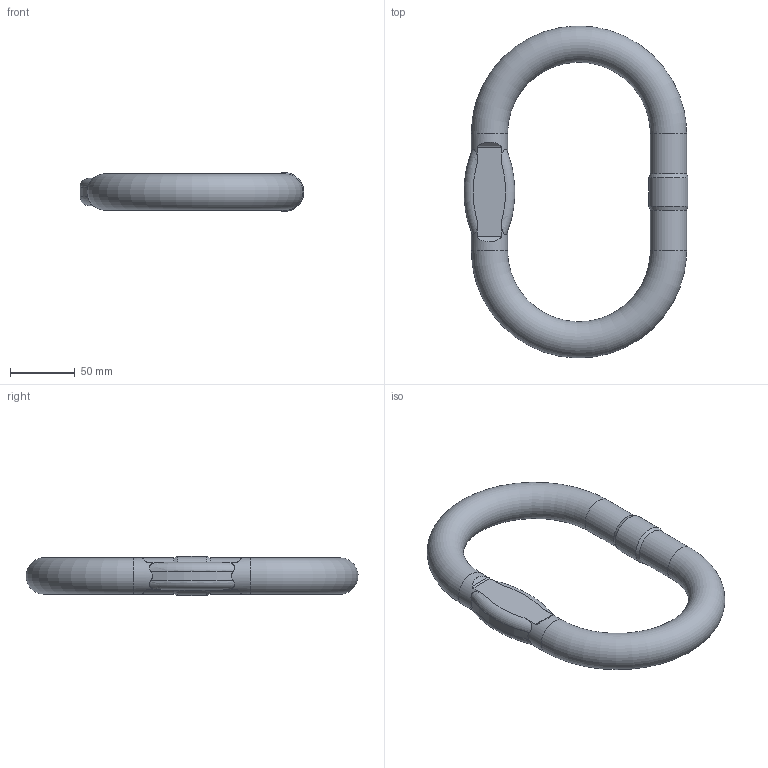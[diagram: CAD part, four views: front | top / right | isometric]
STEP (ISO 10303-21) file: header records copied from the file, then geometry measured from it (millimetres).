
FILE_DESCRIPTION(/* description */ (''),/* implementation_level */ '2;1');
FILE_NAME(/* name */ 'AWP_27.stp',/* time_stamp */ '2018-02-23T10:29:47+01:00',/* author */ (''),/* organization */ (''),/* preprocessor_version */ 'ST-DEVELOPER v16',/* originating_system */ 'SIEMENS PLM Software NX 11.0',/* authorisation */ '');
FILE_SCHEMA (('AUTOMOTIVE_DESIGN { 1 0 10303 214 3 1 1 1 }'));
Length unit declared in the file: millimetre
Products named in the file (1): kch1114C08Dlj9b
Bounding box: 172.58 x 255.85 x 30.1 mm (x, y, z)
Volume: 384588.1 mm3; surface area: 55229.8 mm2
Topology: 1 solids, 1 shells, 151 faces, 415 edges, 276 vertices
Faces by surface type: plane 81, extrusion 47, cylinder 15, torus 6, cone 2
Full cylindrical faces by diameter (mm): 28 x4, 30.1 x1
Entity records: 5368 total; most frequent: CARTESIAN_POINT 1864, ORIENTED_EDGE 804, DIRECTION 516, EDGE_CURVE 402, VERTEX_POINT 272, VECTOR 242, B_SPLINE_CURVE_WITH_KNOTS 222, LINE 195
